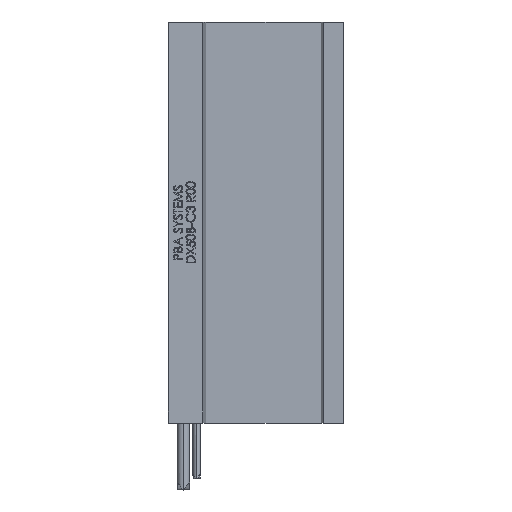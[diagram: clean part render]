
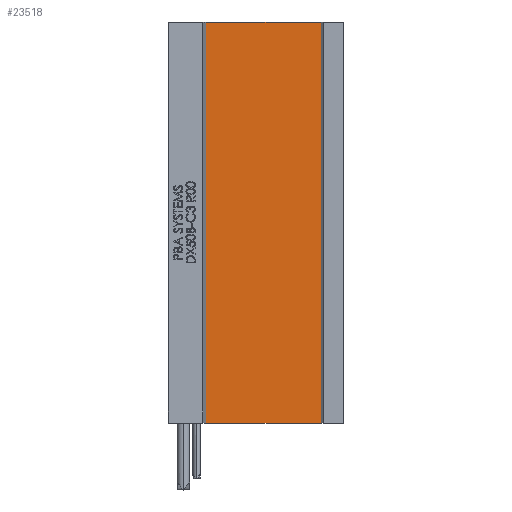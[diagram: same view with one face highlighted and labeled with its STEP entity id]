
A CAD part, left-side view. The second image highlights one B-rep face of the part: STEP entity #23518.
In plain terms, the highlighted planar face has unit normal (-1, 0, 0) as drawn and (1, 0, 0) by its records, which use the part's own axes.
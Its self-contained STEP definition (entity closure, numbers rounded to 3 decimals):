
#1263 = VECTOR ( 'NONE', #24393, 1000. ) ;
#1575 = CARTESIAN_POINT ( 'NONE',  ( 3.6, -12.7, 0. ) ) ;
#2169 = LINE ( 'NONE', #1575, #1263 ) ;
#2494 = VERTEX_POINT ( 'NONE', #14205 ) ;
#4802 = CARTESIAN_POINT ( 'NONE',  ( 3.6, -12.7, -181. ) ) ;
#7456 = EDGE_LOOP ( 'NONE', ( #33296, #34797, #7572, #24430 ) ) ;
#7472 = VECTOR ( 'NONE', #25515, 1000. ) ;
#7572 = ORIENTED_EDGE ( 'NONE', *, *, #15468, .T. ) ;
#7805 = LINE ( 'NONE', #35695, #30621 ) ;
#8404 = CARTESIAN_POINT ( 'NONE',  ( 3.6, -12.7, -181. ) ) ;
#9942 = PLANE ( 'NONE',  #33164 ) ;
#10494 = DIRECTION ( 'NONE',  ( 0., 1., 0. ) ) ;
#11275 = FACE_OUTER_BOUND ( 'NONE', #7456, .T. ) ;
#13275 = EDGE_CURVE ( 'NONE', #17331, #2494, #7805, .T. ) ;
#14205 = CARTESIAN_POINT ( 'NONE',  ( 3.6, -64.9, 0. ) ) ;
#14917 = EDGE_CURVE ( 'NONE', #2494, #24510, #2169, .T. ) ;
#15305 = EDGE_CURVE ( 'NONE', #23927, #24510, #31180, .T. ) ;
#15468 = EDGE_CURVE ( 'NONE', #17331, #23927, #20851, .T. ) ;
#15670 = DIRECTION ( 'NONE',  ( 1., 0., 0. ) ) ;
#17331 = VERTEX_POINT ( 'NONE', #27776 ) ;
#20851 = LINE ( 'NONE', #4802, #35203 ) ;
#23257 = CARTESIAN_POINT ( 'NONE',  ( 3.6, -12.7, -181. ) ) ;
#23518 = ADVANCED_FACE ( 'NONE', ( #11275 ), #9942, .T. ) ;
#23927 = VERTEX_POINT ( 'NONE', #23257 ) ;
#24393 = DIRECTION ( 'NONE',  ( 0., 1., 0. ) ) ;
#24430 = ORIENTED_EDGE ( 'NONE', *, *, #15305, .T. ) ;
#24510 = VERTEX_POINT ( 'NONE', #36488 ) ;
#25515 = DIRECTION ( 'NONE',  ( 0., 0., 1. ) ) ;
#27776 = CARTESIAN_POINT ( 'NONE',  ( 3.6, -64.9, -181. ) ) ;
#30621 = VECTOR ( 'NONE', #33419, 1000. ) ;
#31180 = LINE ( 'NONE', #8404, #7472 ) ;
#32833 = CARTESIAN_POINT ( 'NONE',  ( 3.6, -12.7, -181. ) ) ;
#33164 = AXIS2_PLACEMENT_3D ( 'NONE', #32833, #15670, #35725 ) ;
#33296 = ORIENTED_EDGE ( 'NONE', *, *, #14917, .F. ) ;
#33419 = DIRECTION ( 'NONE',  ( 0., 0., 1. ) ) ;
#34797 = ORIENTED_EDGE ( 'NONE', *, *, #13275, .F. ) ;
#35203 = VECTOR ( 'NONE', #10494, 1000. ) ;
#35695 = CARTESIAN_POINT ( 'NONE',  ( 3.6, -64.9, -181. ) ) ;
#35725 = DIRECTION ( 'NONE',  ( 0., 1., 0. ) ) ;
#36488 = CARTESIAN_POINT ( 'NONE',  ( 3.6, -12.7, 0. ) ) ;
